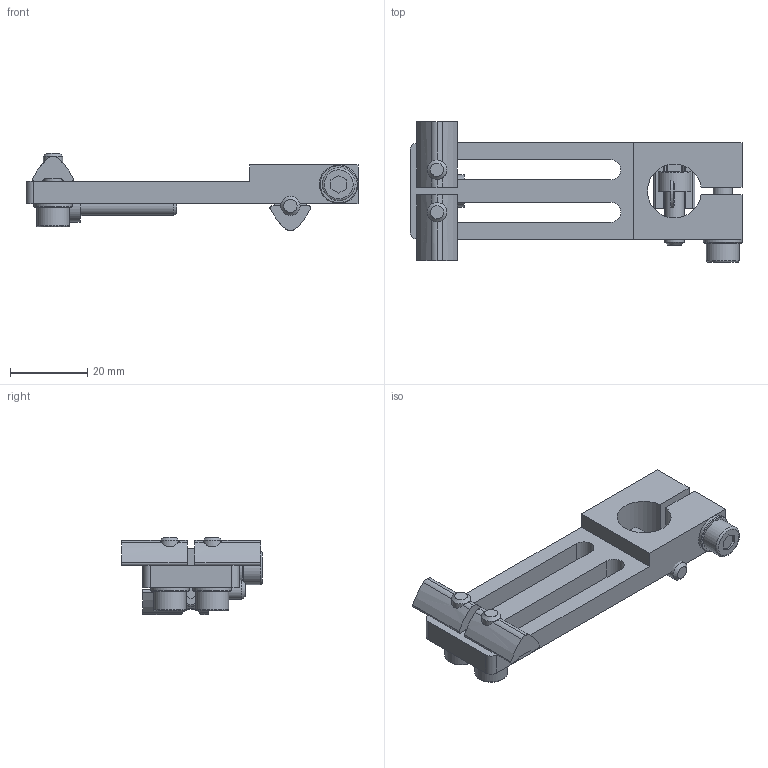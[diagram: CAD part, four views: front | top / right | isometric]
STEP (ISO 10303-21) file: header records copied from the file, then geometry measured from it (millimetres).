
FILE_DESCRIPTION( ( 'Unknown' ), '1' );
FILE_NAME( 'C:/Users/Fabrizio/Desktop/DISEGNI ACCESSORI FP SOLIDEDGE/CA.04.02.14.6.stp', 'Unknown', ( 'Unknown' ), ( 'Unknown' ), 'PSStep 13.0', 'Unknown', ' ' );
FILE_SCHEMA( ( 'AUTOMOTIVE_DESIGN { 1 0 10303 214 1 1 1 1 }' ) );
Length unit declared in the file: millimetre
Products named in the file (6): Assem1; 04-02-14; rondellaDIN 125 - A 5.3; V-tcei M  5 x 25; V-tcei M 5 x 14; CA.02.05.005
Bounding box: 86 x 36.5 x 20 mm (x, y, z)
Volume: 25628.9 mm3; surface area: 18738.3 mm2
Topology: 14 solids, 14 shells, 209 faces, 516 edges, 339 vertices
Faces by surface type: plane 112, cylinder 81, cone 9, torus 7
Full cylindrical faces by diameter (mm): 4.134 x2, 5 x8, 5.3 x4, 5.5 x2, 8.5 x5, 10 x4
Entity records: 3488 total; most frequent: CARTESIAN_POINT 495, DIRECTION 416, ORIENTED_EDGE 368, EDGE_CURVE 184, AXIS2_PLACEMENT_3D 151, STYLED_ITEM 147, PRESENTATION_STYLE_ASSIGNMENT 147, COLOUR_RGB 147
